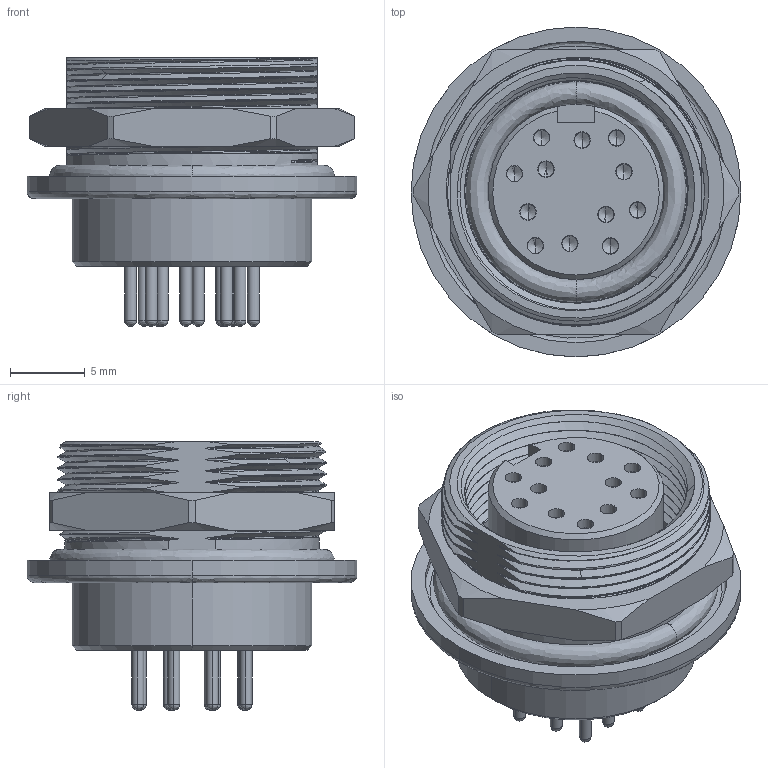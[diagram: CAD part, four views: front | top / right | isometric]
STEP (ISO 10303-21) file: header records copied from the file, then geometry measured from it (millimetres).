
FILE_DESCRIPTION (( 'STEP AP203' ), '1' );
FILE_NAME ('880-012-213R001.STEP', '2025-05-15T18:13:57', ( '' ), ( '' ), 'SwSTEP 2.0', 'SolidWorks 2020', '' );
FILE_SCHEMA (( 'CONFIG_CONTROL_DESIGN' ));
Length unit declared in the file: millimetre
Products named in the file (1): 880-012-213R001
Bounding box: 22 x 22 x 17.9 mm (x, y, z)
Volume: 2720.2 mm3; surface area: 4685.2 mm2
Topology: 1 solids, 1 shells, 554 faces, 1568 edges, 971 vertices
Faces by surface type: cylinder 181, bspline 138, plane 133, cone 102
Entity records: 33999 total; most frequent: CARTESIAN_POINT 21185, ORIENTED_EDGE 2990, DIRECTION 2203, EDGE_CURVE 1495, VERTEX_POINT 971, AXIS2_PLACEMENT_3D 886, EDGE_LOOP 600, B_SPLINE_CURVE_WITH_KNOTS 587
